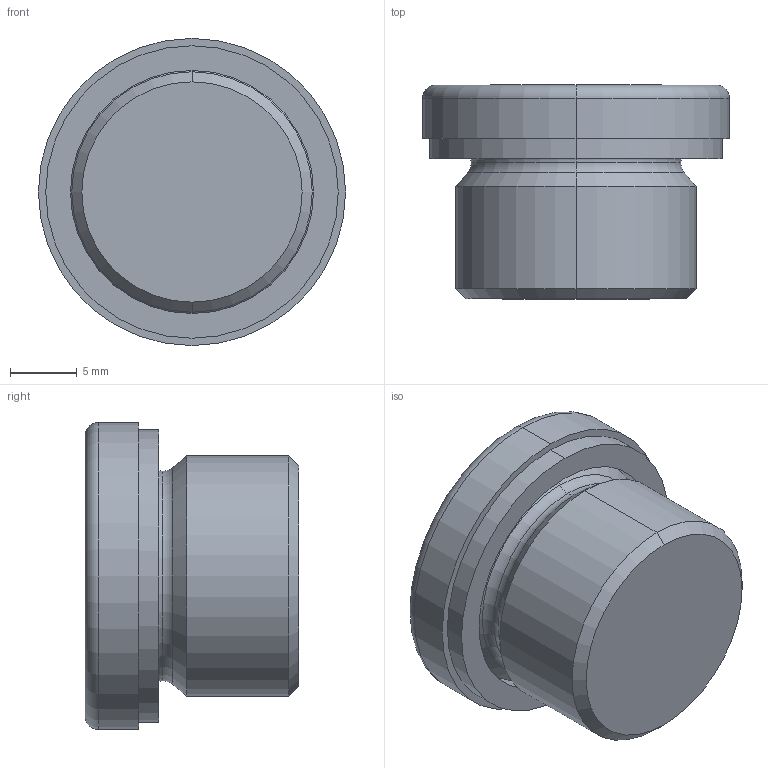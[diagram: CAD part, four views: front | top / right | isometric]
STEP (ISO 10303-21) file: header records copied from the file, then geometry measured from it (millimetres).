
FILE_DESCRIPTION (( 'STEP AP214' ), '1' );
FILE_NAME ('908-A4-M18x1,5-AA.step', '2024-12-19T09:18:36', ( '' ), ( '' ), 'SwSTEP 2.0', 'SolidWorks 2022', '' );
FILE_SCHEMA (( 'AUTOMOTIVE_DESIGN' ));
Length unit declared in the file: millimetre
Products named in the file (1): 908-A4-M18x1,5-AA
Bounding box: 23 x 16 x 23 mm (x, y, z)
Volume: 4312 mm3; surface area: 2157 mm2
Topology: 1 solids, 1 shells, 31 faces, 64 edges, 38 vertices
Faces by surface type: plane 11, cylinder 8, torus 6, cone 6
Entity records: 929 total; most frequent: DIRECTION 160, CARTESIAN_POINT 134, ORIENTED_EDGE 128, AXIS2_PLACEMENT_3D 64, EDGE_CURVE 64, VERTEX_POINT 38, EDGE_LOOP 34, VECTOR 32
